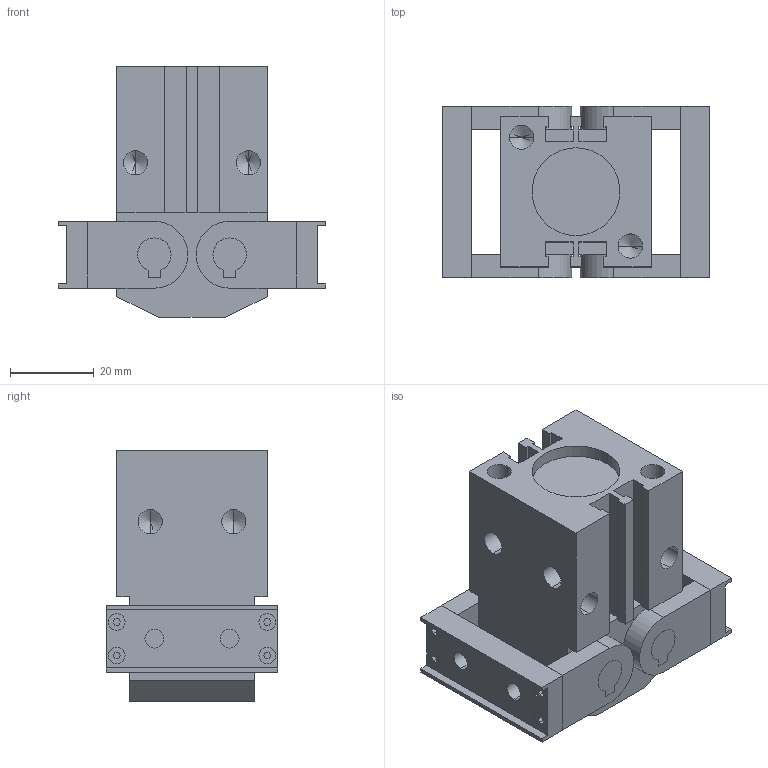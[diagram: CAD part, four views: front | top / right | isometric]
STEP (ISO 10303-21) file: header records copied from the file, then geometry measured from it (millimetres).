
FILE_DESCRIPTION (( 'STEP AP203' ), '1' );
FILE_NAME ('GHK 20 open.STEP', '2013-03-04T09:47:00', ( 'Conseil Régional Haute-Normandie' ), ( 'Conseil Régional Haute-Normandie' ), 'SwSTEP 2.0', 'SolidWorks 2010', '' );
FILE_SCHEMA (( 'CONFIG_CONTROL_DESIGN' ));
Length unit declared in the file: millimetre
Products named in the file (5): Pièce1   GHK_Default; Pièce5 GHK20_Default; Pièce4 GHK20_Default; Pièce6  GHK20_Default; GHK 20 open
Assembly tree (9 placements, depth 2):
  GHK 20 open
    Pièce5 GHK20_Default  x4
    Pièce4 GHK20_Default  x2
    Pièce6  GHK20_Default  x2
    Pièce1   GHK_Default
Bounding box: 64 x 41 x 60 mm (x, y, z)
Volume: 76662.4 mm3; surface area: 25695 mm2
Topology: 9 solids, 9 shells, 277 faces, 686 edges, 438 vertices
Faces by surface type: plane 189, cylinder 68, cone 20
Entity records: 5842 total; most frequent: DIRECTION 899, CARTESIAN_POINT 899, ORIENTED_EDGE 858, EDGE_CURVE 429, VECTOR 339, LINE 339, VERTEX_POINT 280, AXIS2_PLACEMENT_3D 280
